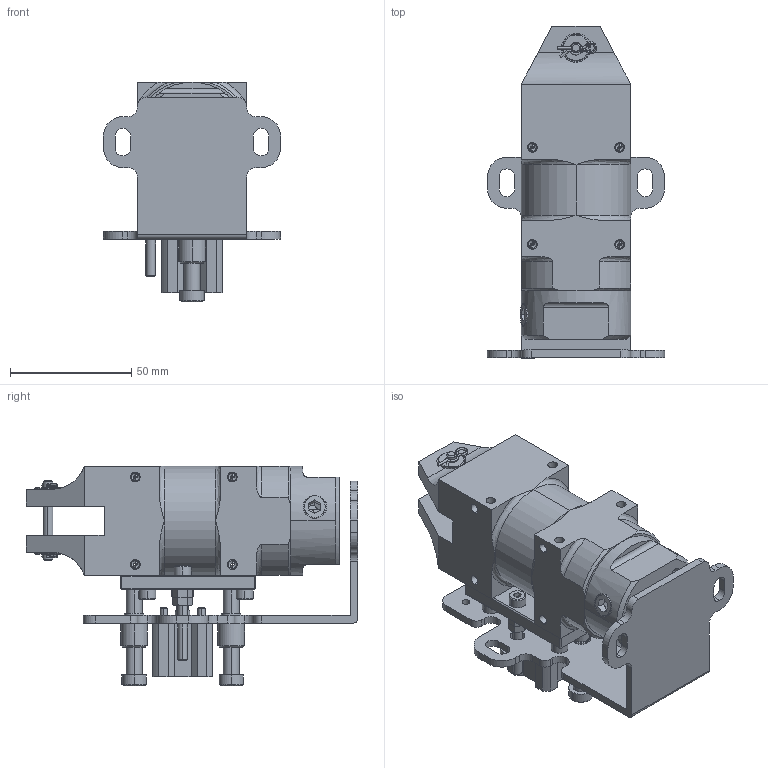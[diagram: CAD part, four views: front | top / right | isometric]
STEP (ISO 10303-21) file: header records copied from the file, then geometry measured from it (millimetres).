
FILE_DESCRIPTION (( 'STEP AP214' ), '1' );
FILE_NAME ('GTNB205HIKU.STEP', '2019-11-29T08:54:24', ( '微软用户' ), ( '微软中国' ), 'SwSTEP 2.0', 'SolidWorks 2016', '' );
FILE_SCHEMA (( 'AUTOMOTIVE_DESIGN' ));
Length unit declared in the file: millimetre
Products named in the file (1): GTNB205HIKU
Bounding box: 73 x 136.7 x 90.5 mm (x, y, z)
Surface area: 66497.8 mm2 (no closed solid volume)
Topology: 0 solids, 29 shells, 901 faces, 2257 edges, 1376 vertices
Faces by surface type: plane 311, cylinder 305, cone 249, bspline 34, torus 2
Entity records: 37936 total; most frequent: CARTESIAN_POINT 16076, ORIENTED_EDGE 4245, DIRECTION 4219, EDGE_CURVE 2188, AXIS2_PLACEMENT_3D 1654, VERTEX_POINT 1370, EDGE_LOOP 1053, VECTOR 911
